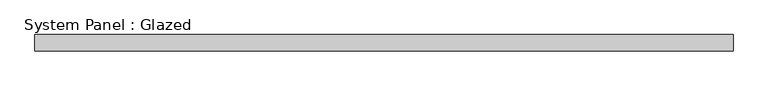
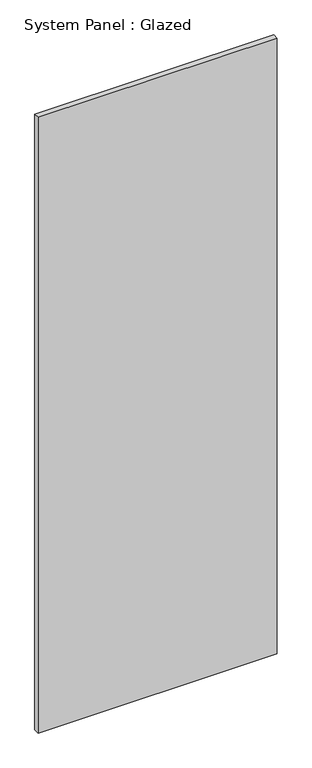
"""IFC4 building model written with IfcOpenShell, lengths in millimetres: plate geometry, System Panel : Glazed."""

import ifcopenshell
import ifcopenshell.guid

model = None  # the IFC model being written
_history = None  # IfcOwnerHistory: only IFC2X3 demands one
_inside = {}  # id of a spatial element -> (the spatial element, [elements in it])
_under = {}  # id of a project, library or spatial element -> (it, [spatial elements below it])
_declared = {}  # id of a project -> (the project, [libraries it declares])
_typed = {}  # id of a type object -> (the type object, [elements of that type])
_made_of = {}  # id of a material, layer set ... -> (it, [elements and type objects made of it])


def new_model(schema):
    """Start an empty IFC model of exactly this schema.

    Asked for "IFC4X3", IfcOpenShell would pick the latest addendum, in which some entities
    have other attributes; the version numbers below select the first issue.
    IFC2X3 requires an IfcOwnerHistory on every rooted entity: one is made here for all.
    """
    global model, _history
    if schema == "IFC4X3":
        model = ifcopenshell.file(schema_version=(4, 3, 0, 0))
    else:
        model = ifcopenshell.file(schema=schema)
    _inside.clear()
    _under.clear()
    _declared.clear()
    _typed.clear()
    _made_of.clear()
    _history = None
    if model.schema == "IFC2X3":
        org = make("IfcOrganization", Name="unknown")
        user = make(
            "IfcPersonAndOrganization",
            ThePerson=make("IfcPerson", FamilyName="unknown"),
            TheOrganization=org,
        )
        app = make(
            "IfcApplication",
            ApplicationDeveloper=org,
            Version="unknown",
            ApplicationFullName="unknown",
            ApplicationIdentifier="unknown",
        )
        _history = make(
            "IfcOwnerHistory",
            OwningUser=user,
            OwningApplication=app,
            ChangeAction="ADDED",
            CreationDate=0,
        )
    return model


def make(cls, **values):
    """One entity of the class cls with the attributes given. An attribute that is None is left unset."""
    return model.create_entity(
        cls, **{name: value for name, value in values.items() if value is not None}
    )


def rooted(cls, **values):
    """An entity with a GlobalId (a new one), such as an element, a storey or a relation."""
    return make(cls, GlobalId=ifcopenshell.guid.new(), OwnerHistory=_history, **values)


def si_unit(unit_type, name, prefix=None):
    """IfcSIUnit, for example si_unit("LENGTHUNIT", "METRE", prefix="MILLI")."""
    return make("IfcSIUnit", UnitType=unit_type, Prefix=prefix, Name=name)


def assignment(units):
    """IfcUnitAssignment: the units of a project."""
    return None if units is None else make("IfcUnitAssignment", Units=units)


def point(xyz):
    """IfcCartesianPoint."""
    return None if xyz is None else make("IfcCartesianPoint", Coordinates=xyz)


def direction(xyz):
    """IfcDirection."""
    return None if xyz is None else make("IfcDirection", DirectionRatios=xyz)


def frame(location, z_axis=None, x_axis=None):
    """IfcAxis2Placement3D, a coordinate frame: its origin and axes. An axis left out is left unset."""
    return make(
        "IfcAxis2Placement3D",
        Location=point(location),
        Axis=direction(z_axis),
        RefDirection=direction(x_axis),
    )


def origin():
    """The frame at (0, 0, 0) with its axes left unset."""
    return frame((0.0, 0.0, 0.0))


def origin_with_axes():
    """The frame at (0, 0, 0) with the z axis (0, 0, 1) and the x axis (1, 0, 0) written out."""
    return frame((0.0, 0.0, 0.0), z_axis=(0.0, 0.0, 1.0), x_axis=(1.0, 0.0, 0.0))


def place(relative_to, where):
    """IfcLocalPlacement: puts the frame where relative to a parent placement (None: the world)."""
    return make(
        "IfcLocalPlacement", PlacementRelTo=relative_to, RelativePlacement=where
    )


def context(
    kind, dimensions, precision=None, world=None, true_north=None, identifier=None
):
    """IfcGeometricRepresentationContext, for example the 3D "Model" context."""
    return make(
        "IfcGeometricRepresentationContext",
        ContextIdentifier=identifier,
        ContextType=kind,
        CoordinateSpaceDimension=dimensions,
        Precision=precision,
        WorldCoordinateSystem=world,
        TrueNorth=true_north,
    )


def project(units=None, contexts=None):
    """IfcProject with its units and contexts."""
    return rooted(
        "IfcProject",
        Name="project",
        RepresentationContexts=contexts,
        UnitsInContext=assignment(units),
    )


def spatial(cls, under=None, at=None, **own):
    """A site, building, storey or space (cls), placed at a placement, below another one or the project."""
    s = rooted(cls, ObjectPlacement=at, **own)
    if under is not None:
        _under.setdefault(under.id(), (under, []))[1].append(s)
    return s


def polyline(points):
    """IfcPolyline through the points."""
    return make("IfcPolyline", Points=[point(p) for p in points])


def outline(outer, holes=None, kind="AREA"):
    """IfcArbitraryClosedProfileDef: a profile drawn as a closed curve; with holes, ...WithVoids."""
    if holes is None:
        return make("IfcArbitraryClosedProfileDef", ProfileType=kind, OuterCurve=outer)
    return make(
        "IfcArbitraryProfileDefWithVoids",
        ProfileType=kind,
        OuterCurve=outer,
        InnerCurves=holes,
    )


def extrude(swept, where, along, depth):
    """IfcExtrudedAreaSolid: the profile swept, set in the frame where, extruded along a direction by depth."""
    return make(
        "IfcExtrudedAreaSolid",
        SweptArea=swept,
        Position=where,
        ExtrudedDirection=direction(along),
        Depth=depth,
    )


def shape(context_of_items, identifier, shape_type, items):
    """IfcShapeRepresentation: the items that make up one representation, for example the "Body"."""
    return make(
        "IfcShapeRepresentation",
        ContextOfItems=context_of_items,
        RepresentationIdentifier=identifier,
        RepresentationType=shape_type,
        Items=items,
    )


def source(mapping_origin, context_of_items, identifier, shape_type, items):
    """IfcRepresentationMap: a shape defined once, which mapped items show again and again."""
    return make(
        "IfcRepresentationMap",
        MappingOrigin=mapping_origin,
        MappedRepresentation=shape(context_of_items, identifier, shape_type, items),
    )


def transform(
    local_origin,
    x_axis=None,
    y_axis=None,
    z_axis=None,
    scale=None,
    scale2=None,
    scale3=None,
    uniform=True,
):
    """IfcCartesianTransformationOperator3D, or its non-uniform kind. x_axis, y_axis, z_axis: its Axis1, 2, 3."""
    if uniform:
        return make(
            "IfcCartesianTransformationOperator3D",
            Axis1=direction(x_axis),
            Axis2=direction(y_axis),
            LocalOrigin=point(local_origin),
            Scale=scale,
            Axis3=direction(z_axis),
        )
    return make(
        "IfcCartesianTransformationOperator3DnonUniform",
        Axis1=direction(x_axis),
        Axis2=direction(y_axis),
        LocalOrigin=point(local_origin),
        Scale=scale,
        Axis3=direction(z_axis),
        Scale2=scale2,
        Scale3=scale3,
    )


def mapped(mapping_source, mapping_target):
    """IfcMappedItem: shows the shape of a source again, moved by a transform."""
    return make(
        "IfcMappedItem", MappingSource=mapping_source, MappingTarget=mapping_target
    )


def made_of(thing, what):
    """Note that an element or type object is made of a material, layer set ...; save() writes the relation."""
    if what is not None:
        _made_of.setdefault(what.id(), (what, []))[1].append(thing)
    return thing


def element(
    cls,
    number,
    at=None,
    inside=None,
    cuts=None,
    type_object=None,
    material=None,
    context=None,
    identifier="Body",
    shape_type=None,
    held_by="IfcProductDefinitionShape",
    body=None,
    shapes=None,
    **own,
):
    """One element of the class cls, such as IfcWall. Its Tag is "e" and its number.

    at: its placement. inside: the storey or other place that contains it. cuts: it is an
    opening in that element (IfcRelVoidsElement). A single representation is given by context,
    identifier, shape_type and body (its items); several are given by shapes. held_by: the class
    of the entity that holds the representations. save() writes the other relations.
    """
    e = rooted(cls, Tag="e%d" % number, ObjectPlacement=at, **own)
    if body is not None:
        shapes = [shape(context, identifier, shape_type, body)]
    if shapes is not None:
        e.Representation = make(held_by, Representations=shapes)
    if inside is not None:
        _inside.setdefault(inside.id(), (inside, []))[1].append(e)
    if cuts is not None:
        rooted(
            "IfcRelVoidsElement", RelatingBuildingElement=cuts, RelatedOpeningElement=e
        )
    if type_object is not None:
        _typed.setdefault(type_object.id(), (type_object, []))[1].append(e)
    return made_of(e, material)


def aggregate(whole, parts):
    """IfcRelAggregates: a whole, such as a stair, and the parts it consists of."""
    return rooted("IfcRelAggregates", RelatingObject=whole, RelatedObjects=parts)


def save(model, path):
    """Write the relations noted so far, then the file.

    IfcRelAggregates (storeys below a building ...), IfcRelContainedInSpatialStructure (elements
    in a storey), IfcRelDefinesByType, IfcRelAssociatesMaterial and IfcRelDeclares: one each for
    every whole, place, type object, material and project.
    """
    for whole, parts in _under.values():
        aggregate(whole, parts)
    for where, things in _inside.values():
        rooted(
            "IfcRelContainedInSpatialStructure",
            RelatedElements=things,
            RelatingStructure=where,
        )
    for kind, things in _typed.values():
        rooted("IfcRelDefinesByType", RelatedObjects=things, RelatingType=kind)
    for what, things in _made_of.values():
        rooted("IfcRelAssociatesMaterial", RelatedObjects=things, RelatingMaterial=what)
    for by, libraries in _declared.values():
        rooted("IfcRelDeclares", RelatingContext=by, RelatedDefinitions=libraries)
    model.write(path)


def system_panel_glazed_2ffedfca(model_context):
    return source(origin(), model_context, "Body", "SweptSolid", [
        extrude(outline(polyline([(537.5, 24.5), (-537.5, 24.5), (-537.5, 49.5), (537.5, 49.5), (537.5, 24.5)])), origin_with_axes(), (0.0, 0.0, 1.0), 2925.0),
    ])


if __name__ == "__main__":
    model = new_model("IFC4")
    model_context = context("Model", 3, world=origin())
    ifc_project = project(units=[si_unit("LENGTHUNIT", "METRE", prefix="MILLI")], contexts=[model_context])
    site = spatial("IfcSite", under=ifc_project)
    building = spatial("IfcBuilding", under=site)
    placement = place(None, origin())
    system_panel_glazed_shape = system_panel_glazed_2ffedfca(model_context)
    element("IfcPlate", 1, ObjectType="System Panel : Glazed", at=placement, inside=building, context=model_context, shape_type="MappedRepresentation", body=[
        mapped(system_panel_glazed_shape, transform((0.0, 0.0, 0.0), x_axis=(1.0, 0.0, 0.0), y_axis=(0.0, 1.0, 0.0), z_axis=(0.0, 0.0, 1.0))),
    ])
    save(model, "model.ifc")
